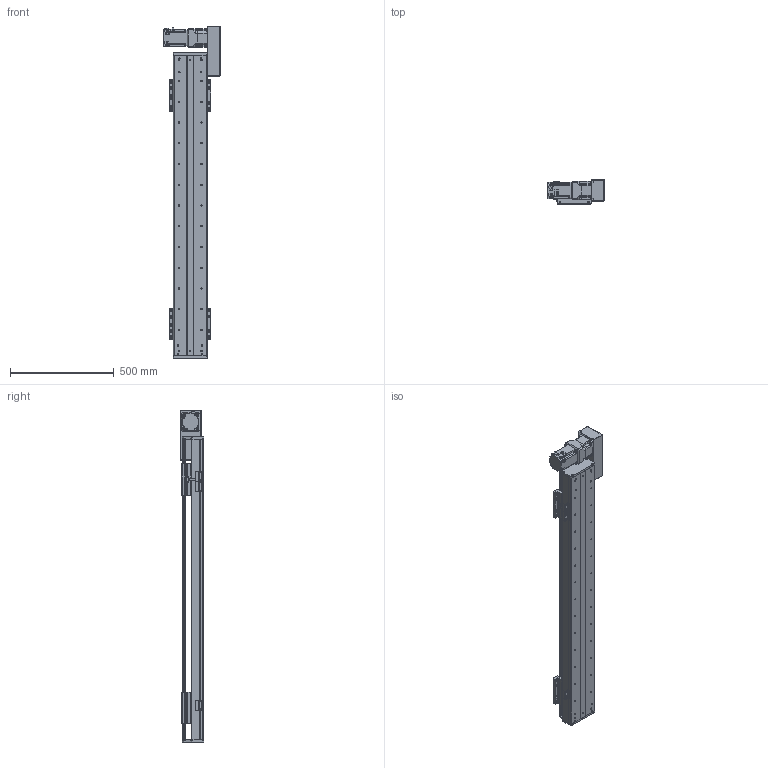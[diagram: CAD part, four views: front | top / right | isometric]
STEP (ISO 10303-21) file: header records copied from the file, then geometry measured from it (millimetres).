
FILE_DESCRIPTION(/* description */ (''),/* implementation_level */ '2;1');
FILE_NAME(/* name */ 'C:\Users\PC\Desktop\3D도면\STEP\DSB165-R7G-W1100-L.stp',/* time_stamp */ '2018-06-25T14:39:21+09:00',/* author */ ('PC'),/* organization */ (''),/* preprocessor_version */ 'ST-DEVELOPER v16.5',/* originating_system */ 'Autodesk Inventor 2017',/* authorisation */ '');
FILE_SCHEMA (('AUTOMOTIVE_DESIGN { 1 0 10303 214 3 1 1 }'));
Length unit declared in the file: millimetre
Products named in the file (12): DSB165-L7G-W1100-R_MIR; DSB165-BASE-L_MIR; hg-kr73__MIR; ab0901-p0401300102_MIR; 11-DSB165 BELT COVER_MIR; 12-DSB165-REAR COVER_MIR; 14-DSB165-FRONT COVER_MIR; DSB165-UP COVER_MIR; DSB165-TABLE(MSB20S)_MIR; DSR165-SENSOR DOG_MIR; pm-y65_step_MIR; SENSOR BRACKET(EE-SX674A)_MIR
Assembly tree (16 placements, depth 2):
  DSB165-L7G-W1100-R_MIR
    DSB165-BASE-L_MIR
    hg-kr73__MIR
    ab0901-p0401300102_MIR
    11-DSB165 BELT COVER_MIR
    12-DSB165-REAR COVER_MIR
    14-DSB165-FRONT COVER_MIR
    DSB165-UP COVER_MIR
    DSB165-TABLE(MSB20S)_MIR  x2
    DSR165-SENSOR DOG_MIR
    pm-y65_step_MIR  x3
    SENSOR BRACKET(EE-SX674A)_MIR  x3
Bounding box: 270 x 115 x 1600 mm (x, y, z)
Volume: 9324128.9 mm3; surface area: 2161657.2 mm2
Topology: 17 solids, 17 shells, 1673 faces, 4494 edges, 2960 vertices
Faces by surface type: plane 921, cylinder 622, cone 118, sphere 8, torus 4
Full cylindrical faces by diameter (mm): 2.459 x20, 3.5 x6, 4.134 x42, 4.5 x18, 5 x27, 5.5 x36, 5.9 x4, 6 x4, 6.6 x14, 6.647 x46, 6.8 x1, 7 x4, 7.6 x4, 8.4 x1, 8.5 x24, 8.7 x1, 9.5 x32, 11 x6, 14 x16, 19 x1, 22 x1, 24 x1, 25 x1, 28 x1, 67 x1, 70 x2, 80 x1
Entity records: 36256 total; most frequent: DIRECTION 6282, CARTESIAN_POINT 6087, ORIENTED_EDGE 5546, EDGE_CURVE 2773, AXIS2_PLACEMENT_3D 2311, VERTEX_POINT 1978, EDGE_LOOP 1743, LINE 1660
